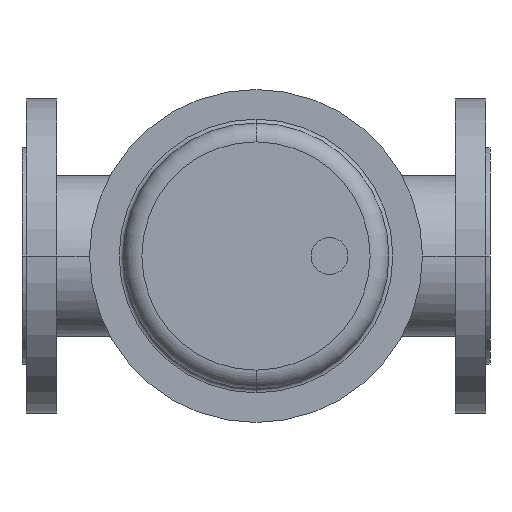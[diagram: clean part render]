
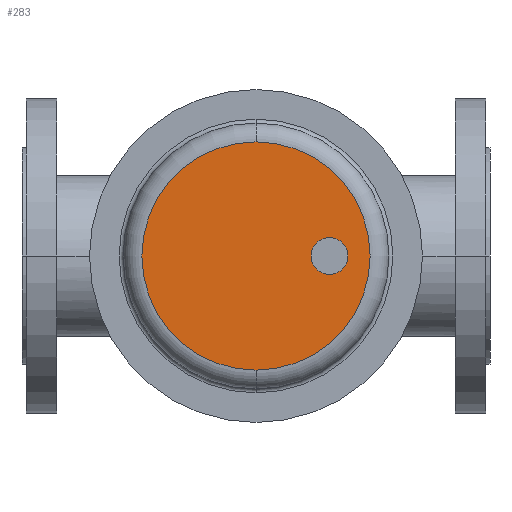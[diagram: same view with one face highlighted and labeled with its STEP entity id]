
A CAD part, front view. The second image highlights one B-rep face of the part: STEP entity #283.
In plain terms, the highlighted planar face has unit normal (0, -1, 0).
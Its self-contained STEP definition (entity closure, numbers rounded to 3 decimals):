
#283 = ADVANCED_FACE( '', ( #668, #669 ), #670, .T. );
#668 = FACE_BOUND( '', #1069, .T. );
#669 = FACE_OUTER_BOUND( '', #1070, .T. );
#670 = PLANE( '', #1071 );
#1069 = EDGE_LOOP( '', ( #2347, #2348 ) );
#1070 = EDGE_LOOP( '', ( #2349, #2350, #2351 ) );
#1071 = AXIS2_PLACEMENT_3D( '', #2352, #2353, #2354 );
#2347 = ORIENTED_EDGE( '', *, *, #2849, .T. );
#2348 = ORIENTED_EDGE( '', *, *, #2851, .T. );
#2349 = ORIENTED_EDGE( '', *, *, #2843, .F. );
#2350 = ORIENTED_EDGE( '', *, *, #2842, .F. );
#2351 = ORIENTED_EDGE( '', *, *, #2852, .F. );
#2352 = CARTESIAN_POINT( '', ( 217.688, -559., 0. ) );
#2353 = DIRECTION( '', ( 0., -1., 0. ) );
#2354 = DIRECTION( '', ( -1., 0., 0. ) );
#2842 = EDGE_CURVE( '', #3517, #3520, #3521, .T. );
#2843 = EDGE_CURVE( '', #3520, #3522, #3523, .T. );
#2849 = EDGE_CURVE( '', #3527, #3531, #3533, .T. );
#2851 = EDGE_CURVE( '', #3531, #3527, #3535, .T. );
#2852 = EDGE_CURVE( '', #3522, #3517, #3536, .T. );
#3517 = VERTEX_POINT( '', #4851 );
#3520 = VERTEX_POINT( '', #4854 );
#3521 = CIRCLE( '', #4855, 85.375 );
#3522 = VERTEX_POINT( '', #4856 );
#3523 = CIRCLE( '', #4857, 85.375 );
#3527 = VERTEX_POINT( '', #4861 );
#3531 = VERTEX_POINT( '', #4866 );
#3533 = CIRCLE( '', #4869, 13.75 );
#3535 = CIRCLE( '', #4871, 13.75 );
#3536 = CIRCLE( '', #4872, 85.375 );
#4851 = CARTESIAN_POINT( '', ( 175., -559., 85.375 ) );
#4854 = CARTESIAN_POINT( '', ( 260.375, -559., 0. ) );
#4855 = AXIS2_PLACEMENT_3D( '', #5800, #5801, #5802 );
#4856 = CARTESIAN_POINT( '', ( 175., -559., -85.375 ) );
#4857 = AXIS2_PLACEMENT_3D( '', #5803, #5804, #5805 );
#4861 = CARTESIAN_POINT( '', ( 243.75, -559., 0. ) );
#4866 = CARTESIAN_POINT( '', ( 216.25, -559., 0. ) );
#4869 = AXIS2_PLACEMENT_3D( '', #5817, #5818, #5819 );
#4871 = AXIS2_PLACEMENT_3D( '', #5823, #5824, #5825 );
#4872 = AXIS2_PLACEMENT_3D( '', #5826, #5827, #5828 );
#5800 = CARTESIAN_POINT( '', ( 175., -559., 0. ) );
#5801 = DIRECTION( '', ( 0., 1., 0. ) );
#5802 = DIRECTION( '', ( 1., 0., 0. ) );
#5803 = CARTESIAN_POINT( '', ( 175., -559., 0. ) );
#5804 = DIRECTION( '', ( 0., 1., 0. ) );
#5805 = DIRECTION( '', ( 1., 0., 0. ) );
#5817 = CARTESIAN_POINT( '', ( 230., -559., 0. ) );
#5818 = DIRECTION( '', ( 0., 1., 0. ) );
#5819 = DIRECTION( '', ( 1., 0., 0. ) );
#5823 = CARTESIAN_POINT( '', ( 230., -559., 0. ) );
#5824 = DIRECTION( '', ( 0., 1., 0. ) );
#5825 = DIRECTION( '', ( 1., 0., 0. ) );
#5826 = CARTESIAN_POINT( '', ( 175., -559., 0. ) );
#5827 = DIRECTION( '', ( 0., 1., 0. ) );
#5828 = DIRECTION( '', ( 1., 0., 0. ) );
